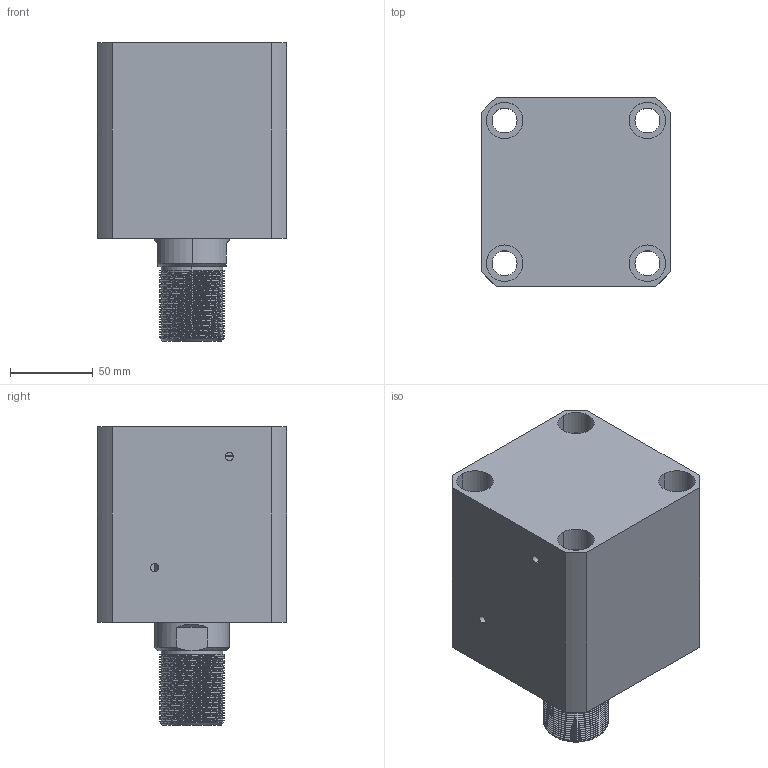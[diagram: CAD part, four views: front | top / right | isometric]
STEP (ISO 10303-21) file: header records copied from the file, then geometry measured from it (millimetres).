
FILE_DESCRIPTION (( 'STEP AP214' ), '1' );
FILE_NAME ('chtb-sdma80x40wasm.STEP', '2018-05-29T03:48:58', ( 'Windows' ), ( 'Microsoft' ), 'SwSTEP 2.0', 'SolidWorks 2015', '' );
FILE_SCHEMA (( 'AUTOMOTIVE_DESIGN' ));
Length unit declared in the file: millimetre
Products named in the file (4): CHTB-SDMA80X40NBT; CHTB-SD80X40WHSG; CHTB-SD80QG; chtb-sdma80x40wasm
Assembly tree (3 placements, depth 2):
  chtb-sdma80x40wasm
    CHTB-SD80QG
    CHTB-SD80X40WHSG
    CHTB-SDMA80X40NBT
Bounding box: 114 x 114 x 180 mm (x, y, z)
Volume: 1327848.4 mm3; surface area: 197991.2 mm2
Topology: 3 solids, 3 shells, 251 faces, 695 edges, 466 vertices
Faces by surface type: cylinder 163, plane 38, torus 18, bspline 16, cone 16
Entity records: 20277 total; most frequent: CARTESIAN_POINT 14301, ORIENTED_EDGE 1382, DIRECTION 1068, EDGE_CURVE 691, VERTEX_POINT 466, AXIS2_PLACEMENT_3D 433, EDGE_LOOP 289, FACE_OUTER_BOUND 251
